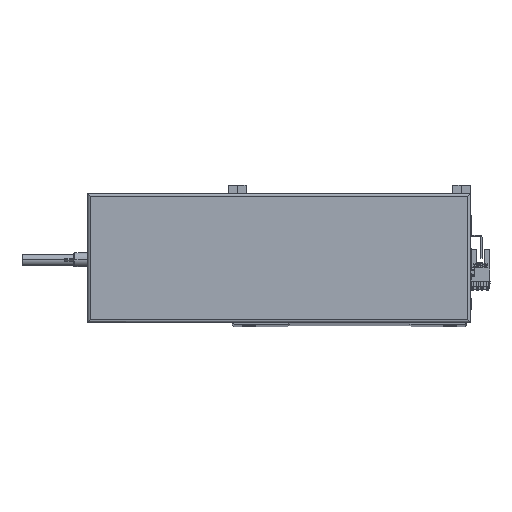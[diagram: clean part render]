
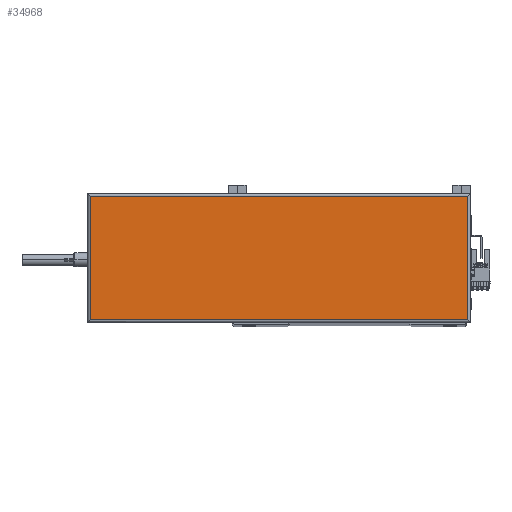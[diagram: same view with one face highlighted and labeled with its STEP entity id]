
A CAD part, top view. The second image highlights one B-rep face of the part: STEP entity #34968.
In plain terms, the highlighted planar face has unit normal (0, 0, 1).
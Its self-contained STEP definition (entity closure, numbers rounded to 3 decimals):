
#249 = DIRECTION ( 'NONE',  ( -1., 0., 0. ) ) ;
#2680 = VECTOR ( 'NONE', #31546, 1000. ) ;
#6850 = AXIS2_PLACEMENT_3D ( 'NONE', #35866, #20981, #41170 ) ;
#7875 = CARTESIAN_POINT ( 'NONE',  ( 265., 90., 44.8 ) ) ;
#8006 = FACE_OUTER_BOUND ( 'NONE', #39594, .T. ) ;
#9745 = CARTESIAN_POINT ( 'NONE',  ( 2., 2., 44.8 ) ) ;
#9943 = ORIENTED_EDGE ( 'NONE', *, *, #20684, .T. ) ;
#9993 = ORIENTED_EDGE ( 'NONE', *, *, #43021, .T. ) ;
#11227 = CARTESIAN_POINT ( 'NONE',  ( 267., 2., 44.8 ) ) ;
#12421 = VECTOR ( 'NONE', #249, 1000. ) ;
#12599 = CARTESIAN_POINT ( 'NONE',  ( 2., 0., 44.8 ) ) ;
#16638 = DIRECTION ( 'NONE',  ( 0., -1., 0. ) ) ;
#17464 = VERTEX_POINT ( 'NONE', #44839 ) ;
#20684 = EDGE_CURVE ( 'NONE', #30840, #24484, #50663, .T. ) ;
#20981 = DIRECTION ( 'NONE',  ( 0., 0., 1. ) ) ;
#23190 = LINE ( 'NONE', #28727, #12421 ) ;
#23360 = ORIENTED_EDGE ( 'NONE', *, *, #28866, .T. ) ;
#24005 = PLANE ( 'NONE',  #6850 ) ;
#24484 = VERTEX_POINT ( 'NONE', #42833 ) ;
#26476 = CARTESIAN_POINT ( 'NONE',  ( 265., 2., 44.8 ) ) ;
#28727 = CARTESIAN_POINT ( 'NONE',  ( 0., 88., 44.8 ) ) ;
#28866 = EDGE_CURVE ( 'NONE', #34793, #30840, #33116, .T. ) ;
#30602 = VECTOR ( 'NONE', #16638, 1000. ) ;
#30840 = VERTEX_POINT ( 'NONE', #26476 ) ;
#31546 = DIRECTION ( 'NONE',  ( 1., 0., 0. ) ) ;
#32804 = DIRECTION ( 'NONE',  ( 0., 1., 0. ) ) ;
#33116 = LINE ( 'NONE', #11227, #2680 ) ;
#33826 = LINE ( 'NONE', #12599, #30602 ) ;
#34793 = VERTEX_POINT ( 'NONE', #9745 ) ;
#34968 = ADVANCED_FACE ( 'NONE', ( #8006 ), #24005, .T. ) ;
#35012 = EDGE_CURVE ( 'NONE', #24484, #17464, #23190, .T. ) ;
#35866 = CARTESIAN_POINT ( 'NONE',  ( 133.5, 45., 44.8 ) ) ;
#39594 = EDGE_LOOP ( 'NONE', ( #9943, #41620, #9993, #23360 ) ) ;
#39872 = VECTOR ( 'NONE', #32804, 1000. ) ;
#41170 = DIRECTION ( 'NONE',  ( 1., 0., 0. ) ) ;
#41620 = ORIENTED_EDGE ( 'NONE', *, *, #35012, .T. ) ;
#42833 = CARTESIAN_POINT ( 'NONE',  ( 265., 88., 44.8 ) ) ;
#43021 = EDGE_CURVE ( 'NONE', #17464, #34793, #33826, .T. ) ;
#44839 = CARTESIAN_POINT ( 'NONE',  ( 2., 88., 44.8 ) ) ;
#50663 = LINE ( 'NONE', #7875, #39872 ) ;
